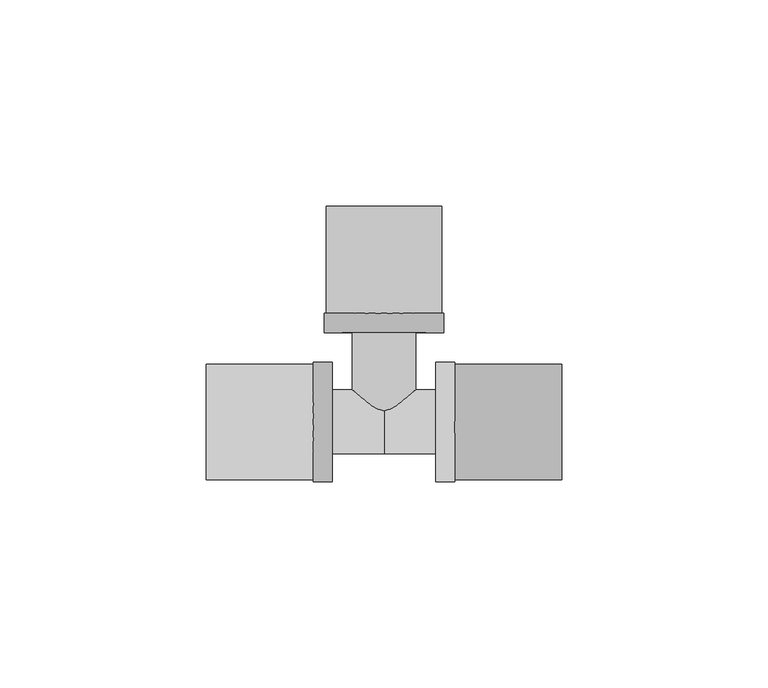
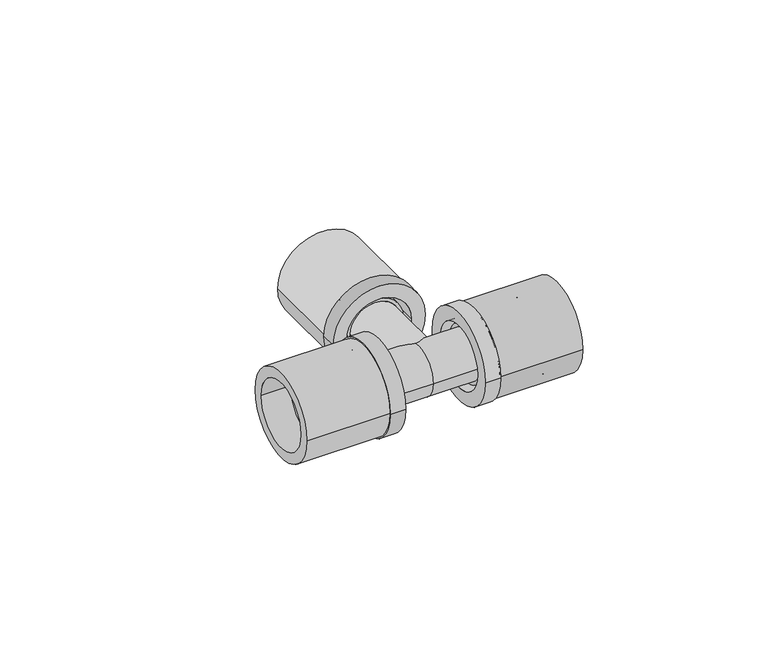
"""IFC4 building model written with IfcOpenShell, lengths in millimetres: pipe fitting geometry, FASTLOC_T-piece_LX : FSL T-Piece LX CZ."""

from ifc_helpers import new_model, si_unit, point, frame, origin, origin_2d, place, context, project, spatial, polyline, circle_curve, trimmed, segment, composite_curve, outline, extrude, source, transform, mapped, element, save
from ifc_brep_helpers import plane_surface, cylinder_surface, revolved_surface, advanced_brep


def pipe_fitting_bded02bd(model_context):
    return source(origin(), model_context, "Body", "SolidModel", [
        extrude(outline(composite_curve([segment(trimmed(circle_curve(origin_2d(), 14.0), [point((-14.0, 0.0))], [point((14.0, 0.0))], False, "CARTESIAN"), True, "CONTINUOUS"), segment(trimmed(circle_curve(origin_2d(), 14.0), [point((14.0, 0.0))], [point((-14.0, 0.0))], False, "CARTESIAN"), True, "CONTINUOUS")], self_intersect=False), holes=[composite_curve([segment(trimmed(circle_curve(origin_2d(), 10.7), [point((-10.7, 0.0))], [point((10.7, 0.0))], True, "CARTESIAN"), True, "CONTINUOUS"), segment(trimmed(circle_curve(origin_2d(), 10.7), [point((10.7, 0.0))], [point((-10.7, 0.0))], True, "CARTESIAN"), True, "CONTINUOUS")], self_intersect=False)]), frame((17.2, 0.0, 0.0), z_axis=(1.0, 0.0, 0.0), x_axis=(0.0, 1.0, 0.0)), (0.0, 0.0, 1.0), 26.0),
        advanced_brep(
        [(17.2, 14.5, 0.0), (17.2, -14.5, 0.0), (12.5, -14.5, 0.0), (12.5, 14.5, 0.0), (34.2, 11.85, 0.0), (34.2, -11.85, 0.0), (17.2, -11.85, 0.0), (17.2, 11.85, 0.0), (12.5, 10.15, 0.0), (12.5, -10.15, 0.0), (34.2, -10.15, 0.0), (34.2, 10.15, 0.0)],
        [
            (0, 1, circle_curve(frame((17.2, 0.0, 0.0), z_axis=(-1.0, 0.0, 0.0), x_axis=(0.0, -1.0, 0.0)), 14.5)),
            (1, 2),
            (2, 3, circle_curve(frame((12.5, 0.0, 0.0), z_axis=(1.0, 0.0, 0.0), x_axis=(0.0, -1.0, 0.0)), 14.5)),
            (3, 0),
            (4, 5, circle_curve(frame((34.2, 0.0, 0.0), z_axis=(-1.0, 0.0, 0.0), x_axis=(0.0, -1.0, 0.0)), 11.85)),
            (5, 6),
            (6, 7, circle_curve(frame((17.2, 0.0, 0.0), z_axis=(1.0, 0.0, 0.0), x_axis=(0.0, -1.0, 0.0)), 11.85)),
            (7, 4),
            (8, 9, circle_curve(frame((12.5, 0.0, 0.0), z_axis=(-1.0, 0.0, 0.0), x_axis=(0.0, -1.0, 0.0)), 10.15)),
            (9, 10),
            (10, 11, circle_curve(frame((34.2, 0.0, 0.0), z_axis=(1.0, 0.0, 0.0), x_axis=(0.0, -1.0, 0.0)), 10.15)),
            (11, 8),
            (1, 0, circle_curve(frame((17.2, 0.0, 0.0), z_axis=(-1.0, 0.0, 0.0), x_axis=(0.0, 1.0, 0.0)), 14.5)),
            (3, 2, circle_curve(frame((12.5, 0.0, 0.0), z_axis=(1.0, 0.0, 0.0), x_axis=(0.0, 1.0, 0.0)), 14.5)),
            (6, 7, circle_curve(frame((17.2, 0.0, 0.0), z_axis=(-1.0, 0.0, 0.0), x_axis=(0.0, 1.0, 0.0)), 11.85)),
            (5, 4, circle_curve(frame((34.2, 0.0, 0.0), z_axis=(-1.0, 0.0, 0.0), x_axis=(0.0, 1.0, 0.0)), 11.85)),
            (10, 11, circle_curve(frame((34.2, 0.0, 0.0), z_axis=(-1.0, 0.0, 0.0), x_axis=(0.0, 1.0, 0.0)), 10.15)),
            (9, 8, circle_curve(frame((12.5, 0.0, 0.0), z_axis=(-1.0, 0.0, 0.0), x_axis=(0.0, 1.0, 0.0)), 10.15)),
        ],
        [
            cylinder_surface(frame((12.5, 0.0, 0.0), z_axis=(1.0, 0.0, 0.0), x_axis=(0.0, -1.0, 0.0)), 14.5),
            cylinder_surface(frame((12.5, 0.0, 0.0), z_axis=(1.0, 0.0, 0.0), x_axis=(0.0, -1.0, 0.0)), 11.85),
            revolved_surface(polyline([(34.2, -10.15, 0.0), (12.5, -10.15, 0.0)]), (12.5, 0.0, 0.0), (1.0, 0.0, 0.0)),
            cylinder_surface(frame((12.5, 0.0, 0.0), z_axis=(1.0, 0.0, 0.0), x_axis=(0.0, 1.0, 0.0)), 14.5),
            plane_surface(frame((17.2, 0.0, 0.0), z_axis=(1.0, 0.0, 0.0), x_axis=(0.0, 1.0, 0.0))),
            cylinder_surface(frame((12.5, 0.0, 0.0), z_axis=(1.0, 0.0, 0.0), x_axis=(0.0, 1.0, 0.0)), 11.85),
            plane_surface(frame((34.2, 0.0, 0.0), z_axis=(1.0, 0.0, 0.0), x_axis=(0.0, 1.0, 0.0))),
            revolved_surface(polyline([(34.2, 10.15, 0.0), (12.5, 10.15, 0.0)]), (12.5, 0.0, 0.0), (1.0, 0.0, 0.0)),
            plane_surface(frame((12.5, 0.0, 0.0), z_axis=(-1.0, 0.0, 0.0), x_axis=(0.0, 1.0, 0.0))),
        ],
        [
            (0, [[1, 2, 3, 4]]),
            (1, [[5, 6, 7, 8]]),
            (2, [[9, 10, 11, 12]]),
            (3, [[13, -4, 14, -2]]),
            (4, [[-13, -1], [15, -7]]),
            (5, [[16, -8, -15, -6]]),
            (6, [[-16, -5], [17, -11]]),
            (7, [[18, -12, -17, -10]]),
            (8, [[-14, -3], [-18, -9]]),
        ],
    ),
        extrude(outline(composite_curve([segment(trimmed(circle_curve(origin_2d(), 14.0), [point((14.0, 0.0))], [point((-14.0, 0.0))], False, "CARTESIAN"), True, "CONTINUOUS"), segment(trimmed(circle_curve(origin_2d(), 14.0), [point((-14.0, 0.0))], [point((14.0, 0.0))], False, "CARTESIAN"), True, "CONTINUOUS")], self_intersect=False), holes=[composite_curve([segment(trimmed(circle_curve(origin_2d(), 10.7), [point((10.7, 0.0))], [point((-10.7, 0.0))], True, "CARTESIAN"), True, "CONTINUOUS"), segment(trimmed(circle_curve(origin_2d(), 10.7), [point((-10.7, 0.0))], [point((10.7, 0.0))], True, "CARTESIAN"), True, "CONTINUOUS")], self_intersect=False)]), frame((-43.2, 0.0, 0.0), z_axis=(1.0, 0.0, 0.0), x_axis=(0.0, 1.0, 0.0)), (0.0, 0.0, 1.0), 26.0),
        advanced_brep(
        [(-17.2, -14.5, 0.0), (-17.2, 14.5, 0.0), (-12.5, 14.5, 0.0), (-12.5, -14.5, 0.0), (-34.2, -11.85, 0.0), (-34.2, 11.85, 0.0), (-17.2, 11.85, 0.0), (-17.2, -11.85, 0.0), (-12.5, -10.15, 0.0), (-12.5, 10.15, 0.0), (-34.2, 10.15, 0.0), (-34.2, -10.15, 0.0)],
        [
            (0, 1, circle_curve(frame((-17.2, 0.0, 0.0), z_axis=(1.0, 0.0, 0.0), x_axis=(0.0, 1.0, 0.0)), 14.5)),
            (1, 2),
            (2, 3, circle_curve(frame((-12.5, 0.0, 0.0), z_axis=(-1.0, 0.0, 0.0), x_axis=(0.0, 1.0, 0.0)), 14.5)),
            (3, 0),
            (4, 5, circle_curve(frame((-34.2, 0.0, 0.0), z_axis=(1.0, 0.0, 0.0), x_axis=(0.0, 1.0, 0.0)), 11.85)),
            (5, 6),
            (6, 7, circle_curve(frame((-17.2, 0.0, 0.0), z_axis=(-1.0, 0.0, 0.0), x_axis=(0.0, 1.0, 0.0)), 11.85)),
            (7, 4),
            (8, 9, circle_curve(frame((-12.5, 0.0, 0.0), z_axis=(1.0, 0.0, 0.0), x_axis=(0.0, 1.0, 0.0)), 10.15)),
            (9, 10),
            (10, 11, circle_curve(frame((-34.2, 0.0, 0.0), z_axis=(-1.0, 0.0, 0.0), x_axis=(0.0, 1.0, 0.0)), 10.15)),
            (11, 8),
            (1, 0, circle_curve(frame((-17.2, 0.0, 0.0), z_axis=(1.0, 0.0, 0.0), x_axis=(0.0, -1.0, 0.0)), 14.5)),
            (3, 2, circle_curve(frame((-12.5, 0.0, 0.0), z_axis=(-1.0, 0.0, 0.0), x_axis=(0.0, -1.0, 0.0)), 14.5)),
            (6, 7, circle_curve(frame((-17.2, 0.0, 0.0), z_axis=(1.0, 0.0, 0.0), x_axis=(0.0, -1.0, 0.0)), 11.85)),
            (5, 4, circle_curve(frame((-34.2, 0.0, 0.0), z_axis=(1.0, 0.0, 0.0), x_axis=(0.0, -1.0, 0.0)), 11.85)),
            (10, 11, circle_curve(frame((-34.2, 0.0, 0.0), z_axis=(1.0, 0.0, 0.0), x_axis=(0.0, -1.0, 0.0)), 10.15)),
            (9, 8, circle_curve(frame((-12.5, 0.0, 0.0), z_axis=(1.0, 0.0, 0.0), x_axis=(0.0, -1.0, 0.0)), 10.15)),
        ],
        [
            cylinder_surface(frame((-12.5, 0.0, 0.0), z_axis=(-1.0, 0.0, 0.0), x_axis=(0.0, 1.0, 0.0)), 14.5),
            cylinder_surface(frame((-12.5, 0.0, 0.0), z_axis=(-1.0, 0.0, 0.0), x_axis=(0.0, 1.0, 0.0)), 11.85),
            revolved_surface(polyline([(-34.2, 10.15, 0.0), (-12.5, 10.15, 0.0)]), (-12.5, 0.0, 0.0), (-1.0, 0.0, 0.0)),
            cylinder_surface(frame((-12.5, 0.0, 0.0), z_axis=(-1.0, 0.0, 0.0), x_axis=(0.0, -1.0, 0.0)), 14.5),
            plane_surface(frame((-17.2, 0.0, 0.0), z_axis=(-1.0, 0.0, 0.0), x_axis=(0.0, -1.0, 0.0))),
            cylinder_surface(frame((-12.5, 0.0, 0.0), z_axis=(-1.0, 0.0, 0.0), x_axis=(0.0, -1.0, 0.0)), 11.85),
            plane_surface(frame((-34.2, 0.0, 0.0), z_axis=(-1.0, 0.0, 0.0), x_axis=(0.0, -1.0, 0.0))),
            revolved_surface(polyline([(-34.2, -10.15, 0.0), (-12.5, -10.15, 0.0)]), (-12.5, 0.0, 0.0), (-1.0, 0.0, 0.0)),
            plane_surface(frame((-12.5, 0.0, 0.0), z_axis=(1.0, 0.0, 0.0), x_axis=(0.0, -1.0, 0.0))),
        ],
        [
            (0, [[1, 2, 3, 4]]),
            (1, [[5, 6, 7, 8]]),
            (2, [[9, 10, 11, 12]]),
            (3, [[13, -4, 14, -2]]),
            (4, [[-13, -1], [15, -7]]),
            (5, [[16, -8, -15, -6]]),
            (6, [[-16, -5], [17, -11]]),
            (7, [[18, -12, -17, -10]]),
            (8, [[-14, -3], [-18, -9]]),
        ],
    ),
        extrude(outline(composite_curve([segment(trimmed(circle_curve(origin_2d(), 14.0), [point((0.0, 14.0))], [point((0.0, -14.0))], False, "CARTESIAN"), True, "CONTINUOUS"), segment(trimmed(circle_curve(origin_2d(), 14.0), [point((0.0, -14.0))], [point((0.0, 14.0))], False, "CARTESIAN"), True, "CONTINUOUS")], self_intersect=False), holes=[composite_curve([segment(trimmed(circle_curve(origin_2d(), 10.7), [point((0.0, 10.7))], [point((0.0, -10.7))], True, "CARTESIAN"), True, "CONTINUOUS"), segment(trimmed(circle_curve(origin_2d(), 10.7), [point((0.0, -10.7))], [point((0.0, 10.7))], True, "CARTESIAN"), True, "CONTINUOUS")], self_intersect=False)]), frame((0.0, 26.4, 0.0), z_axis=(0.0, 1.0, 0.0), x_axis=(0.0, 0.0, 1.0)), (0.0, 0.0, 1.0), 26.0),
        advanced_brep(
        [(-14.5, 26.4, 0.0), (14.5, 26.4, 0.0), (14.5, 21.7, 0.0), (-14.5, 21.7, 0.0), (-11.85, 43.4, 0.0), (11.85, 43.4, 0.0), (11.85, 26.4, 0.0), (-11.85, 26.4, 0.0), (-10.15, 21.7, 0.0), (10.15, 21.7, 0.0), (10.15, 43.4, 0.0), (-10.15, 43.4, 0.0)],
        [
            (0, 1, circle_curve(frame((0.0, 26.4, 0.0), z_axis=(0.0, -1.0, 0.0), x_axis=(1.0, 0.0, 0.0)), 14.5)),
            (1, 2),
            (2, 3, circle_curve(frame((0.0, 21.7, 0.0), z_axis=(0.0, 1.0, 0.0), x_axis=(1.0, 0.0, 0.0)), 14.5)),
            (3, 0),
            (4, 5, circle_curve(frame((0.0, 43.4, 0.0), z_axis=(0.0, -1.0, 0.0), x_axis=(1.0, 0.0, 0.0)), 11.85)),
            (5, 6),
            (6, 7, circle_curve(frame((0.0, 26.4, 0.0), z_axis=(0.0, 1.0, 0.0), x_axis=(1.0, 0.0, 0.0)), 11.85)),
            (7, 4),
            (8, 9, circle_curve(frame((0.0, 21.7, 0.0), z_axis=(0.0, -1.0, 0.0), x_axis=(1.0, 0.0, 0.0)), 10.15)),
            (9, 10),
            (10, 11, circle_curve(frame((0.0, 43.4, 0.0), z_axis=(0.0, 1.0, 0.0), x_axis=(1.0, 0.0, 0.0)), 10.15)),
            (11, 8),
            (1, 0, circle_curve(frame((0.0, 26.4, 0.0), z_axis=(0.0, -1.0, 0.0), x_axis=(-1.0, 0.0, 0.0)), 14.5)),
            (3, 2, circle_curve(frame((0.0, 21.7, 0.0), z_axis=(0.0, 1.0, 0.0), x_axis=(-1.0, 0.0, 0.0)), 14.5)),
            (6, 7, circle_curve(frame((0.0, 26.4, 0.0), z_axis=(0.0, -1.0, 0.0), x_axis=(-1.0, 0.0, 0.0)), 11.85)),
            (5, 4, circle_curve(frame((0.0, 43.4, 0.0), z_axis=(0.0, -1.0, 0.0), x_axis=(-1.0, 0.0, 0.0)), 11.85)),
            (10, 11, circle_curve(frame((0.0, 43.4, 0.0), z_axis=(0.0, -1.0, 0.0), x_axis=(-1.0, 0.0, 0.0)), 10.15)),
            (9, 8, circle_curve(frame((0.0, 21.7, 0.0), z_axis=(0.0, -1.0, 0.0), x_axis=(-1.0, 0.0, 0.0)), 10.15)),
        ],
        [
            cylinder_surface(frame((0.0, 21.7, 0.0), z_axis=(0.0, 1.0, 0.0), x_axis=(1.0, 0.0, 0.0)), 14.5),
            cylinder_surface(frame((0.0, 21.7, 0.0), z_axis=(0.0, 1.0, 0.0), x_axis=(1.0, 0.0, 0.0)), 11.85),
            revolved_surface(polyline([(10.15, 43.4, 0.0), (10.15, 21.7, 0.0)]), (0.0, 21.7, 0.0), (0.0, 1.0, 0.0)),
            cylinder_surface(frame((0.0, 21.7, 0.0), z_axis=(0.0, 1.0, 0.0), x_axis=(-1.0, 0.0, 0.0)), 14.5),
            plane_surface(frame((0.0, 26.4, 0.0), z_axis=(0.0, 1.0, 0.0), x_axis=(-1.0, 0.0, 0.0))),
            cylinder_surface(frame((0.0, 21.7, 0.0), z_axis=(0.0, 1.0, 0.0), x_axis=(-1.0, 0.0, 0.0)), 11.85),
            plane_surface(frame((0.0, 43.4, 0.0), z_axis=(0.0, 1.0, 0.0), x_axis=(-1.0, 0.0, 0.0))),
            revolved_surface(polyline([(-10.15, 43.4, 0.0), (-10.15, 21.7, 0.0)]), (0.0, 21.7, 0.0), (0.0, 1.0, 0.0)),
            plane_surface(frame((0.0, 21.7, 0.0), z_axis=(0.0, -1.0, 0.0), x_axis=(-1.0, 0.0, 0.0))),
        ],
        [
            (0, [[1, 2, 3, 4]]),
            (1, [[5, 6, 7, 8]]),
            (2, [[9, 10, 11, 12]]),
            (3, [[13, -4, 14, -2]]),
            (4, [[-13, -1], [15, -7]]),
            (5, [[16, -8, -15, -6]]),
            (6, [[-16, -5], [17, -11]]),
            (7, [[18, -12, -17, -10]]),
            (8, [[-14, -3], [-18, -9]]),
        ],
    ),
        advanced_brep(
        [(0.0, 7.75, 0.0), (0.0, -7.75, 0.0), (-14.53, -7.75, 0.0), (-14.53, 7.75, 0.0), (14.53, 7.75, 0.0), (14.53, -7.75, 0.0), (17.2, 8.8, 0.0), (17.2, -8.8, 0.0), (14.53, -8.8, 0.0), (14.53, 8.8, 0.0), (34.6, 7.75, 0.0), (34.6, -7.75, 0.0), (17.2, -7.75, 0.0), (17.2, 7.75, 0.0), (-17.2, 7.75, 0.0), (-17.2, -7.75, 0.0), (-34.6, -7.75, 0.0), (-34.6, 7.75, 0.0), (-14.53, 8.8, 0.0), (-14.53, -8.8, 0.0), (-17.2, -8.8, 0.0), (-17.2, 8.8, 0.0), (34.6, -5.75, 0.0), (34.6, 5.75, 0.0), (-34.6, 5.75, 0.0), (-34.6, -5.75, 0.0), (0.0, 5.75, 0.0), (0.0, -5.75, 0.0)],
        [
            (0, 1, circle_curve(frame((0.0, 0.0, 0.0), z_axis=(-1.0, 0.0, 0.0), x_axis=(0.0, -1.0, 0.0)), 7.75)),
            (1, 2),
            (2, 3, circle_curve(frame((-14.53, 0.0, 0.0), z_axis=(1.0, 0.0, 0.0), x_axis=(0.0, -1.0, 0.0)), 7.75)),
            (3, 0),
            (4, 5, circle_curve(frame((14.53, 0.0, 0.0), z_axis=(-1.0, 0.0, 0.0), x_axis=(0.0, -1.0, 0.0)), 7.75)),
            (5, 1),
            (0, 4),
            (6, 7, circle_curve(frame((17.2, 0.0, 0.0), z_axis=(-1.0, 0.0, 0.0), x_axis=(0.0, -1.0, 0.0)), 8.8)),
            (7, 8),
            (8, 9, circle_curve(frame((14.53, 0.0, 0.0), z_axis=(1.0, 0.0, 0.0), x_axis=(0.0, -1.0, 0.0)), 8.8)),
            (9, 6),
            (10, 11, circle_curve(frame((34.6, 0.0, 0.0), z_axis=(-1.0, 0.0, 0.0), x_axis=(0.0, -1.0, 0.0)), 7.75)),
            (11, 12),
            (12, 13, circle_curve(frame((17.2, 0.0, 0.0), z_axis=(1.0, 0.0, 0.0), x_axis=(0.0, -1.0, 0.0)), 7.75)),
            (13, 10),
            (14, 15, circle_curve(frame((-17.2, 0.0, 0.0), z_axis=(-1.0, 0.0, 0.0), x_axis=(0.0, -1.0, 0.0)), 7.75)),
            (15, 16),
            (16, 17, circle_curve(frame((-34.6, 0.0, 0.0), z_axis=(1.0, 0.0, 0.0), x_axis=(0.0, -1.0, 0.0)), 7.75)),
            (17, 14),
            (18, 19, circle_curve(frame((-14.53, 0.0, 0.0), z_axis=(-1.0, 0.0, 0.0), x_axis=(0.0, -1.0, 0.0)), 8.8)),
            (19, 20),
            (20, 21, circle_curve(frame((-17.2, 0.0, 0.0), z_axis=(1.0, 0.0, 0.0), x_axis=(0.0, -1.0, 0.0)), 8.8)),
            (21, 18),
            (18, 19, circle_curve(frame((-14.53, 0.0, 0.0), z_axis=(1.0, 0.0, 0.0), x_axis=(0.0, 1.0, 0.0)), 8.8)),
            (2, 3, circle_curve(frame((-14.53, 0.0, 0.0), z_axis=(-1.0, 0.0, 0.0), x_axis=(0.0, 1.0, 0.0)), 7.75)),
            (1, 0, circle_curve(frame((0.0, 0.0, 0.0), z_axis=(-1.0, 0.0, 0.0), x_axis=(0.0, 1.0, 0.0)), 7.75)),
            (5, 4, circle_curve(frame((14.53, 0.0, 0.0), z_axis=(-1.0, 0.0, 0.0), x_axis=(0.0, 1.0, 0.0)), 7.75)),
            (8, 9, circle_curve(frame((14.53, 0.0, 0.0), z_axis=(-1.0, 0.0, 0.0), x_axis=(0.0, 1.0, 0.0)), 8.8)),
            (7, 6, circle_curve(frame((17.2, 0.0, 0.0), z_axis=(-1.0, 0.0, 0.0), x_axis=(0.0, 1.0, 0.0)), 8.8)),
            (12, 13, circle_curve(frame((17.2, 0.0, 0.0), z_axis=(-1.0, 0.0, 0.0), x_axis=(0.0, 1.0, 0.0)), 7.75)),
            (11, 10, circle_curve(frame((34.6, 0.0, 0.0), z_axis=(-1.0, 0.0, 0.0), x_axis=(0.0, 1.0, 0.0)), 7.75)),
            (22, 23, circle_curve(frame((34.6, 0.0, 0.0), z_axis=(-1.0, 0.0, 0.0), x_axis=(0.0, 1.0, 0.0)), 5.75)),
            (23, 22, circle_curve(frame((34.6, 0.0, 0.0), z_axis=(-1.0, 0.0, 0.0), x_axis=(0.0, -1.0, 0.0)), 5.75)),
            (16, 17, circle_curve(frame((-34.6, 0.0, 0.0), z_axis=(-1.0, 0.0, 0.0), x_axis=(0.0, 1.0, 0.0)), 7.75)),
            (24, 25, circle_curve(frame((-34.6, 0.0, 0.0), z_axis=(1.0, 0.0, 0.0), x_axis=(0.0, 1.0, 0.0)), 5.75)),
            (25, 24, circle_curve(frame((-34.6, 0.0, 0.0), z_axis=(1.0, 0.0, 0.0), x_axis=(0.0, -1.0, 0.0)), 5.75)),
            (15, 14, circle_curve(frame((-17.2, 0.0, 0.0), z_axis=(-1.0, 0.0, 0.0), x_axis=(0.0, 1.0, 0.0)), 7.75)),
            (20, 21, circle_curve(frame((-17.2, 0.0, 0.0), z_axis=(-1.0, 0.0, 0.0), x_axis=(0.0, 1.0, 0.0)), 8.8)),
            (26, 27, circle_curve(frame((0.0, 0.0, 0.0), z_axis=(-1.0, 0.0, 0.0), x_axis=(0.0, -1.0, 0.0)), 5.75)),
            (27, 22),
            (23, 26),
            (25, 27),
            (26, 24),
            (27, 26, circle_curve(frame((0.0, 0.0, 0.0), z_axis=(-1.0, 0.0, 0.0), x_axis=(0.0, 1.0, 0.0)), 5.75)),
        ],
        [
            cylinder_surface(frame((0.0, 0.0, 0.0), z_axis=(1.0, 0.0, 0.0), x_axis=(0.0, -1.0, 0.0)), 7.75),
            cylinder_surface(frame((0.0, 0.0, 0.0), z_axis=(1.0, 0.0, 0.0), x_axis=(0.0, -1.0, 0.0)), 8.8),
            plane_surface(frame((-14.53, 0.0, 0.0), z_axis=(1.0, 0.0, 0.0), x_axis=(0.0, 1.0, 0.0))),
            cylinder_surface(frame((0.0, 0.0, 0.0), z_axis=(1.0, 0.0, 0.0), x_axis=(0.0, 1.0, 0.0)), 7.75),
            plane_surface(frame((14.53, 0.0, 0.0), z_axis=(-1.0, 0.0, 0.0), x_axis=(0.0, 1.0, 0.0))),
            cylinder_surface(frame((0.0, 0.0, 0.0), z_axis=(1.0, 0.0, 0.0), x_axis=(0.0, 1.0, 0.0)), 8.8),
            plane_surface(frame((17.2, 0.0, 0.0), z_axis=(1.0, 0.0, 0.0), x_axis=(0.0, 1.0, 0.0))),
            plane_surface(frame((34.6, 0.0, 0.0), z_axis=(1.0, 0.0, 0.0), x_axis=(0.0, 1.0, 0.0))),
            plane_surface(frame((-34.6, 0.0, 0.0), z_axis=(-1.0, 0.0, 0.0), x_axis=(0.0, 1.0, 0.0))),
            plane_surface(frame((-17.2, 0.0, 0.0), z_axis=(-1.0, 0.0, 0.0), x_axis=(0.0, 1.0, 0.0))),
            revolved_surface(polyline([(34.6, -5.75, 0.0), (0.0, -5.75, 0.0)]), (0.0, 0.0, 0.0), (1.0, 0.0, 0.0)),
            revolved_surface(polyline([(0.0, -5.75, 0.0), (-34.6, -5.75, 0.0)]), (0.0, 0.0, 0.0), (1.0, 0.0, 0.0)),
            revolved_surface(polyline([(34.6, 5.75, 0.0), (0.0, 5.75, 0.0)]), (0.0, 0.0, 0.0), (1.0, 0.0, 0.0)),
            revolved_surface(polyline([(0.0, 5.75, 0.0), (-34.6, 5.75, 0.0)]), (0.0, 0.0, 0.0), (1.0, 0.0, 0.0)),
        ],
        [
            (0, [[1, 2, 3, 4]]),
            (0, [[5, 6, -1, 7]]),
            (1, [[8, 9, 10, 11]]),
            (0, [[12, 13, 14, 15]]),
            (0, [[16, 17, 18, 19]]),
            (1, [[20, 21, 22, 23]]),
            (2, [[24, -20], [25, -3]]),
            (3, [[26, -4, -25, -2]]),
            (3, [[27, -7, -26, -6]]),
            (4, [[28, -10], [-27, -5]]),
            (5, [[29, -11, -28, -9]]),
            (6, [[-29, -8], [30, -14]]),
            (3, [[31, -15, -30, -13]]),
            (7, [[-31, -12], [32, 33]]),
            (8, [[34, -18], [35, 36]]),
            (3, [[37, -19, -34, -17]]),
            (9, [[38, -22], [-37, -16]]),
            (5, [[-24, -23, -38, -21]]),
            (10, [[39, 40, -33, 41]]),
            (11, [[-36, 42, -39, 43]]),
            (12, [[44, -41, -32, -40]]),
            (13, [[-35, -43, -44, -42]]),
        ],
    ),
        advanced_brep(
        [(5.75, 43.8, 0.0), (-5.75, 43.8, 0.0), (-5.75, 0.0, 0.0), (5.75, 0.0, 0.0), (7.75, 0.0, 0.0), (-7.75, 0.0, 0.0), (-7.75, 23.73, 0.0), (7.75, 23.73, 0.0), (8.8, 23.73, 0.0), (-8.8, 23.73, 0.0), (-8.8, 26.4, 0.0), (8.8, 26.4, 0.0), (7.75, 26.4, 0.0), (-7.75, 26.4, 0.0), (-7.75, 43.8, 0.0), (7.75, 43.8, 0.0)],
        [
            (0, 1, circle_curve(frame((0.0, 43.8, 0.0), z_axis=(0.0, 1.0, 0.0), x_axis=(-1.0, 0.0, 0.0)), 5.75)),
            (1, 2),
            (2, 3, circle_curve(frame((0.0, 0.0, 0.0), z_axis=(0.0, -1.0, 0.0), x_axis=(-1.0, 0.0, 0.0)), 5.75)),
            (3, 0),
            (4, 5, circle_curve(frame((0.0, 0.0, 0.0), z_axis=(0.0, 1.0, 0.0), x_axis=(-1.0, 0.0, 0.0)), 7.75)),
            (5, 6),
            (6, 7, circle_curve(frame((0.0, 23.73, 0.0), z_axis=(0.0, -1.0, 0.0), x_axis=(-1.0, 0.0, 0.0)), 7.75)),
            (7, 4),
            (8, 9, circle_curve(frame((0.0, 23.73, 0.0), z_axis=(0.0, 1.0, 0.0), x_axis=(-1.0, 0.0, 0.0)), 8.8)),
            (9, 10),
            (10, 11, circle_curve(frame((0.0, 26.4, 0.0), z_axis=(0.0, -1.0, 0.0), x_axis=(-1.0, 0.0, 0.0)), 8.8)),
            (11, 8),
            (12, 13, circle_curve(frame((0.0, 26.4, 0.0), z_axis=(0.0, 1.0, 0.0), x_axis=(-1.0, 0.0, 0.0)), 7.75)),
            (13, 14),
            (14, 15, circle_curve(frame((0.0, 43.8, 0.0), z_axis=(0.0, -1.0, 0.0), x_axis=(-1.0, 0.0, 0.0)), 7.75)),
            (15, 12),
            (1, 0, circle_curve(frame((0.0, 43.8, 0.0), z_axis=(0.0, 1.0, 0.0), x_axis=(1.0, 0.0, 0.0)), 5.75)),
            (3, 2, circle_curve(frame((0.0, 0.0, 0.0), z_axis=(0.0, -1.0, 0.0), x_axis=(1.0, 0.0, 0.0)), 5.75)),
            (4, 5, circle_curve(frame((0.0, 0.0, 0.0), z_axis=(0.0, -1.0, 0.0), x_axis=(1.0, 0.0, 0.0)), 7.75)),
            (7, 6, circle_curve(frame((0.0, 23.73, 0.0), z_axis=(0.0, -1.0, 0.0), x_axis=(1.0, 0.0, 0.0)), 7.75)),
            (8, 9, circle_curve(frame((0.0, 23.73, 0.0), z_axis=(0.0, -1.0, 0.0), x_axis=(1.0, 0.0, 0.0)), 8.8)),
            (11, 10, circle_curve(frame((0.0, 26.4, 0.0), z_axis=(0.0, -1.0, 0.0), x_axis=(1.0, 0.0, 0.0)), 8.8)),
            (12, 13, circle_curve(frame((0.0, 26.4, 0.0), z_axis=(0.0, -1.0, 0.0), x_axis=(1.0, 0.0, 0.0)), 7.75)),
            (15, 14, circle_curve(frame((0.0, 43.8, 0.0), z_axis=(0.0, -1.0, 0.0), x_axis=(1.0, 0.0, 0.0)), 7.75)),
        ],
        [
            revolved_surface(polyline([(-5.75, 0.0, 0.0), (-5.75, 43.8, 0.0)]), (0.0, 0.0, 0.0), (0.0, -1.0, 0.0)),
            cylinder_surface(frame((0.0, 0.0, 0.0), z_axis=(0.0, -1.0, 0.0), x_axis=(-1.0, 0.0, 0.0)), 7.75),
            cylinder_surface(frame((0.0, 0.0, 0.0), z_axis=(0.0, -1.0, 0.0), x_axis=(-1.0, 0.0, 0.0)), 8.8),
            revolved_surface(polyline([(5.75, 0.0, 0.0), (5.75, 43.8, 0.0)]), (0.0, 0.0, 0.0), (0.0, -1.0, 0.0)),
            plane_surface(frame((0.0, 0.0, 0.0), z_axis=(0.0, -1.0, 0.0), x_axis=(1.0, 0.0, 0.0))),
            cylinder_surface(frame((0.0, 0.0, 0.0), z_axis=(0.0, -1.0, 0.0), x_axis=(1.0, 0.0, 0.0)), 7.75),
            plane_surface(frame((0.0, 23.73, 0.0), z_axis=(0.0, -1.0, 0.0), x_axis=(1.0, 0.0, 0.0))),
            cylinder_surface(frame((0.0, 0.0, 0.0), z_axis=(0.0, -1.0, 0.0), x_axis=(1.0, 0.0, 0.0)), 8.8),
            plane_surface(frame((0.0, 26.4, 0.0), z_axis=(0.0, 1.0, 0.0), x_axis=(1.0, 0.0, 0.0))),
            plane_surface(frame((0.0, 43.8, 0.0), z_axis=(0.0, 1.0, 0.0), x_axis=(1.0, 0.0, 0.0))),
        ],
        [
            (0, [[1, 2, 3, 4]]),
            (1, [[5, 6, 7, 8]]),
            (2, [[9, 10, 11, 12]]),
            (1, [[13, 14, 15, 16]]),
            (3, [[17, -4, 18, -2]]),
            (4, [[19, -5], [-18, -3]]),
            (5, [[-19, -8, 20, -6]]),
            (6, [[21, -9], [-20, -7]]),
            (7, [[-21, -12, 22, -10]]),
            (8, [[-22, -11], [23, -13]]),
            (5, [[-23, -16, 24, -14]]),
            (9, [[-24, -15], [-17, -1]]),
        ],
    ),
    ])


if __name__ == "__main__":
    model = new_model("IFC4")
    model_context = context("Model", 3, world=origin())
    ifc_project = project(units=[si_unit("LENGTHUNIT", "METRE", prefix="MILLI")], contexts=[model_context])
    site = spatial("IfcSite", under=ifc_project)
    building = spatial("IfcBuilding", under=site)
    placement = place(None, origin())
    pipe_fitting_shape = pipe_fitting_bded02bd(model_context)
    element("IfcPipeFitting", 1, ObjectType="FASTLOC_T-piece_LX : FSL T-Piece LX CZ", at=placement, inside=building, context=model_context, shape_type="MappedRepresentation", body=[
        mapped(pipe_fitting_shape, transform((0.0, 0.0, 0.0), x_axis=(1.0, 0.0, 0.0), y_axis=(0.0, 1.0, 0.0), z_axis=(0.0, 0.0, 1.0))),
    ])
    save(model, "model.ifc")
